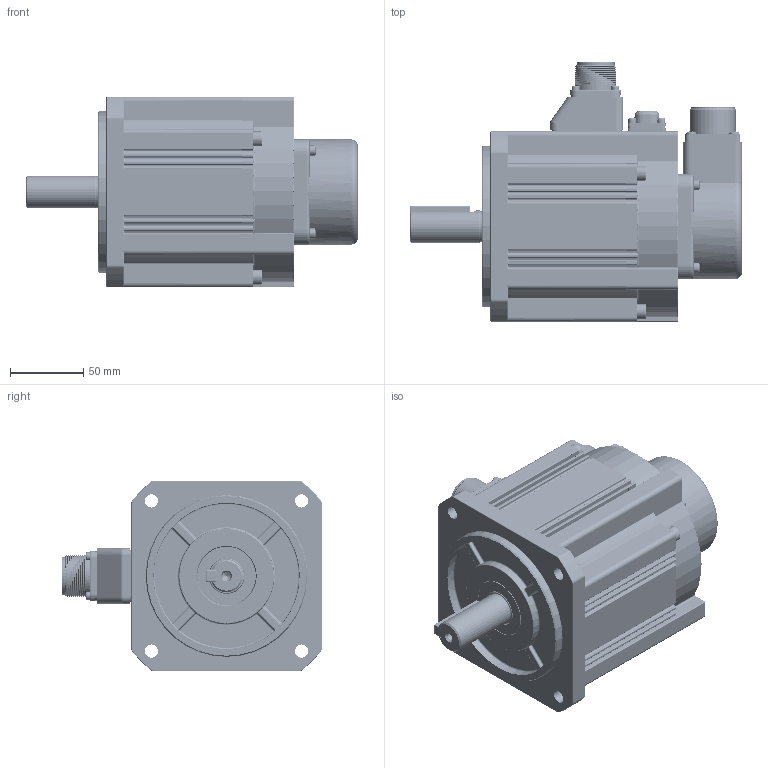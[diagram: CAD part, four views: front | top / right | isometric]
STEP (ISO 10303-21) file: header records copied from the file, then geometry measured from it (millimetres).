
FILE_DESCRIPTION((''),'2;1');
FILE_NAME('11101-01358_ASM','2024-11-12T16:16:33',('0109276'),(''),'CREO PARAMETRIC BY PTC INC, 2019080','CREO PARAMETRIC BY PTC INC, 2019080','');
FILE_SCHEMA(('CONFIG_CONTROL_DESIGN'));
Products named in the file (137): 80040368_AF0; 66670023_AF0; 77840015_AF0; 77840005_AF0; 15CDZZJ_AF12_ASM; 66670023_AF1; 77840015_AF1; 77840005_AF1; 15CDZZJ_AF13_ASM; 66670023_AF2; 77840015_AF2; 77840005_AF2; 15CDZZJ_AF14_ASM; 66670023_AF3; 77840015_AF3; 77840005_AF3; 15CDZZJ_AF15_ASM; 66670023_AF4; 77840015_AF4; 77840005_AF4; 15CDZZJ_AF16_ASM; 66670023_AF5; 77840015_AF5; 77840005_AF5; 15CDZZJ_AF17_ASM; 66670023_AF6; 77840015_AF6; 77840005_AF6; 15CDZZJ_AF18_ASM; 66670023_AF7; 77840015_AF7; 77840005_AF7; 15CDZZJ_AF19_ASM; 66670023_AF8; 77840015_AF8; 77840005_AF8; 15CDZZJ_AF20_ASM; 66670023_AF9; 77840015_AF9; 77840005_AF9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
Assembly tree (142 placements, depth 6):
  11101-01358_ASM
    12112-01178_AF0_ASM
      80040368_AF0
      15CDZZJ_AF12_ASM
        66670023_AF0
        77840015_AF0
        77840005_AF0
      15CDZZJ_AF13_ASM
        66670023_AF1
        77840015_AF1
        77840005_AF1
      15CDZZJ_AF14_ASM
        66670023_AF2
        77840015_AF2
        77840005_AF2
      15CDZZJ_AF15_ASM
        66670023_AF3
        77840015_AF3
        77840005_AF3
      15CDZZJ_AF16_ASM
        66670023_AF4
        77840015_AF4
        77840005_AF4
      15CDZZJ_AF17_ASM
        66670023_AF5
        77840015_AF5
        77840005_AF5
      15CDZZJ_AF18_ASM
        66670023_AF6
        77840015_AF6
        77840005_AF6
      15CDZZJ_AF19_ASM
        66670023_AF7
        77840015_AF7
        77840005_AF7
      15CDZZJ_AF20_ASM
        66670023_AF8
        77840015_AF8
        77840005_AF8
      15CDZZJ_AF21_ASM
        66670023_AF9
        77840015_AF9
        77840005_AF9
      15CDZZJ_AF22_ASM
        66670023_AF10
        77840015_AF10
        77840005_AF10
      15CDZZJ_AF23_ASM
        66670023_AF11
        77840015_AF11
        77840005_AF11
      PCB_PM2301_CV1_AF0
      QBX-15C-2_AF0
      QBX-15C-2_AF1
      QBX-15C-2_AF2
      QBX-15C-2_AF3
      QBX-15C-2_AF4
      QBX-15C-2_AF5
      QBX-15C-2_AF6
      QBX-15C-2_AF7
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Bounding box: 226.7 x 177.24 x 130.08 mm (x, y, z)
Volume: 632045.8 mm3; surface area: 286789.7 mm2
Topology: 35 solids, 64 shells, 6562 faces, 17609 edges, 11320 vertices
Faces by surface type: cylinder 2497, plane 2148, extrusion 812, bspline 453, torus 386, cone 162, sphere 104
Entity records: 297425 total; most frequent: CARTESIAN_POINT 150166, ORIENTED_EDGE 32252, DIRECTION 26335, EDGE_CURVE 16178, VERTEX_POINT 10450, VECTOR 9377, LINE 8565, AXIS2_PLACEMENT_3D 8479
